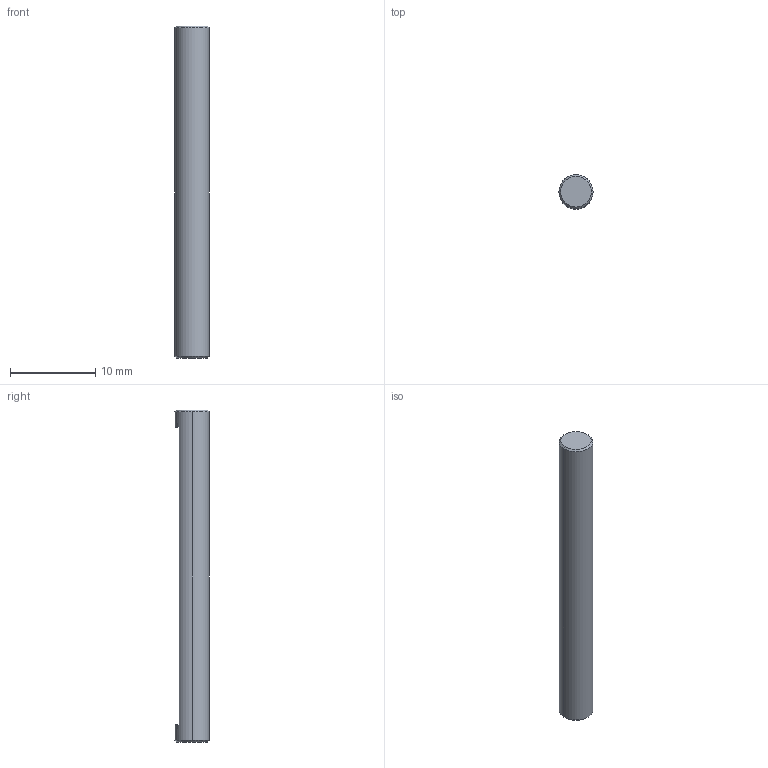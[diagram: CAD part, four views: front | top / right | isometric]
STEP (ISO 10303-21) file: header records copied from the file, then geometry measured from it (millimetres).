
FILE_DESCRIPTION (( 'STEP AP214' ), '1' );
FILE_NAME ('NTS216-B-HOLDER.STEP', '2025-01-08T06:08:51', ( '' ), ( '' ), 'SwSTEP 2.0', 'SolidWorks 2022', '' );
FILE_SCHEMA (( 'AUTOMOTIVE_DESIGN' ));
Length unit declared in the file: millimetre
Products named in the file (1): NTS216-B-HOLDER
Bounding box: 4 x 4 x 39 mm (x, y, z)
Volume: 457.9 mm3; surface area: 505.4 mm2
Topology: 1 solids, 1 shells, 11 faces, 20 edges, 12 vertices
Faces by surface type: plane 5, cone 4, cylinder 2
Entity records: 306 total; most frequent: DIRECTION 54, CARTESIAN_POINT 44, ORIENTED_EDGE 40, AXIS2_PLACEMENT_3D 22, EDGE_CURVE 20, EDGE_LOOP 12, VERTEX_POINT 12, ADVANCED_FACE 11
